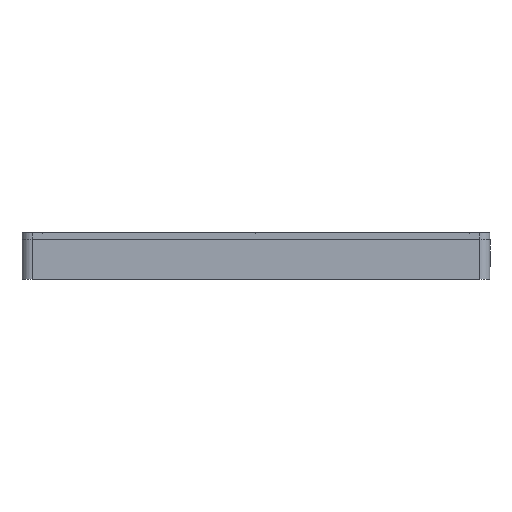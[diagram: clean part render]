
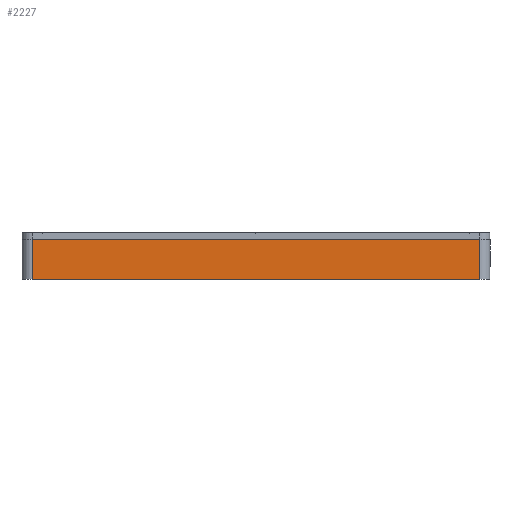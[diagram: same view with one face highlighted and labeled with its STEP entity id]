
A CAD part, left-side view. The second image highlights one B-rep face of the part: STEP entity #2227.
In plain terms, the highlighted planar face has unit normal (-1, 0, 0).
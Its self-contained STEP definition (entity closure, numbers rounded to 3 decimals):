
#441 = PLANE ( 'NONE',  #3894 ) ;
#465 = DIRECTION ( 'NONE',  ( -1., 0., 0. ) ) ;
#475 = DIRECTION ( 'NONE',  ( 0., 0., 1. ) ) ;
#476 = CARTESIAN_POINT ( 'NONE',  ( -67., 0., 0. ) ) ;
#952 = FACE_OUTER_BOUND ( 'NONE', #2929, .T. ) ;
#1418 = VECTOR ( 'NONE', #3323, 1000. ) ;
#1527 = LINE ( 'NONE', #3325, #1418 ) ;
#1532 = LINE ( 'NONE', #3263, #1545 ) ;
#1545 = VECTOR ( 'NONE', #3264, 1000. ) ;
#1956 = VECTOR ( 'NONE', #3307, 1000. ) ;
#1961 = LINE ( 'NONE', #3291, #1956 ) ;
#2042 = LINE ( 'NONE', #3436, #2043 ) ;
#2043 = VECTOR ( 'NONE', #3413, 1000. ) ;
#2227 = ADVANCED_FACE ( 'NONE', ( #952 ), #441, .T. ) ;
#2640 = VERTEX_POINT ( 'NONE', #5452 ) ;
#2641 = VERTEX_POINT ( 'NONE', #5448 ) ;
#2645 = VERTEX_POINT ( 'NONE', #5446 ) ;
#2686 = VERTEX_POINT ( 'NONE', #5509 ) ;
#2929 = EDGE_LOOP ( 'NONE', ( #3186, #3177, #3156, #3154 ) ) ;
#3154 = ORIENTED_EDGE ( 'NONE', *, *, #4547, .T. ) ;
#3156 = ORIENTED_EDGE ( 'NONE', *, *, #4553, .F. ) ;
#3177 = ORIENTED_EDGE ( 'NONE', *, *, #4603, .T. ) ;
#3186 = ORIENTED_EDGE ( 'NONE', *, *, #4539, .T. ) ;
#3263 = CARTESIAN_POINT ( 'NONE',  ( -67., 67., 0. ) ) ;
#3264 = DIRECTION ( 'NONE',  ( 0., 0., -1. ) ) ;
#3291 = CARTESIAN_POINT ( 'NONE',  ( -67., -67., 0. ) ) ;
#3307 = DIRECTION ( 'NONE',  ( 0., 0., -1. ) ) ;
#3323 = DIRECTION ( 'NONE',  ( 0., 1., 0. ) ) ;
#3325 = CARTESIAN_POINT ( 'NONE',  ( -67., 0., 0. ) ) ;
#3413 = DIRECTION ( 'NONE',  ( 0., -1., 0. ) ) ;
#3436 = CARTESIAN_POINT ( 'NONE',  ( -67., 0., -12. ) ) ;
#3894 = AXIS2_PLACEMENT_3D ( 'NONE', #476, #465, #475 ) ;
#4539 = EDGE_CURVE ( 'NONE', #2686, #2641, #1532, .T. ) ;
#4547 = EDGE_CURVE ( 'NONE', #2640, #2686, #1527, .T. ) ;
#4553 = EDGE_CURVE ( 'NONE', #2640, #2645, #1961, .T. ) ;
#4603 = EDGE_CURVE ( 'NONE', #2641, #2645, #2042, .T. ) ;
#5446 = CARTESIAN_POINT ( 'NONE',  ( -67., -67., -12. ) ) ;
#5448 = CARTESIAN_POINT ( 'NONE',  ( -67., 67., -12. ) ) ;
#5452 = CARTESIAN_POINT ( 'NONE',  ( -67., -67., 0. ) ) ;
#5509 = CARTESIAN_POINT ( 'NONE',  ( -67., 67., 0. ) ) ;
